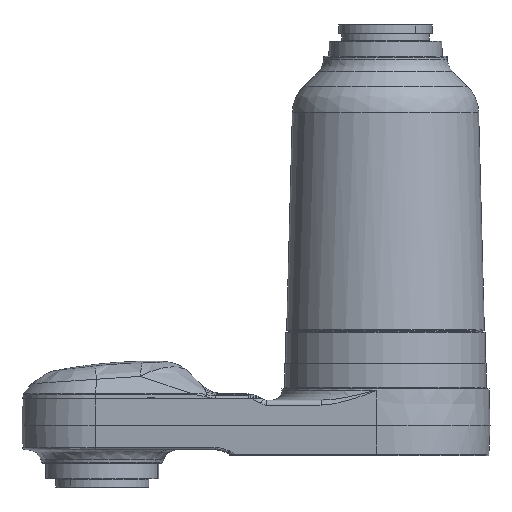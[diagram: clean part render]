
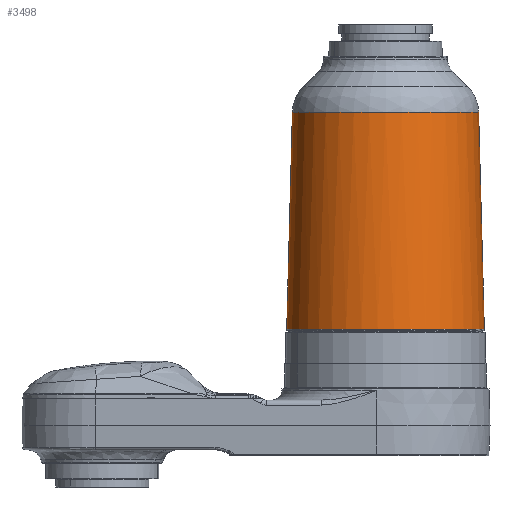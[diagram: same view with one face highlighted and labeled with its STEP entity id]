
A CAD part, front view. The second image highlights one B-rep face of the part: STEP entity #3498.
In plain terms, the highlighted face is a revolution surface.
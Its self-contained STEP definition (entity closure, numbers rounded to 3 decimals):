
#3185=CARTESIAN_POINT('Vertex',(73.989,0.,-292.861)) ;
#3192=CARTESIAN_POINT('Vertex',(-73.989,0.,-292.861)) ;
#3371=CARTESIAN_POINT('Axis2P3D Location',(0.,0.,-292.861)) ;
#3396=CARTESIAN_POINT('Vertex',(78.5,0.,-465.123)) ;
#3403=CARTESIAN_POINT('Vertex',(-78.5,0.,-465.123)) ;
#3406=CARTESIAN_POINT('Line Origine',(-76.245,0.,-378.992)) ;
#3411=CARTESIAN_POINT('Line Origine',(76.245,0.,-378.992)) ;
#3473=CARTESIAN_POINT('Control Point',(-73.989,0.,-292.861)) ;
#3474=CARTESIAN_POINT('Control Point',(-78.5,0.,-465.123)) ;
#3475=CARTESIAN_POINT('Axis1P Location',(0.,0.,-541.5)) ;
#3479=CARTESIAN_POINT('Axis2P3D Location',(0.,0.,-465.123)) ;
#3483=CARTESIAN_POINT('Vertex',(-68.89,-37.635,-465.123)) ;
#3486=CARTESIAN_POINT('Axis2P3D Location',(0.,0.,-465.123)) ;
#3372=DIRECTION('Axis2P3D Direction',(0.,0.,-1.)) ;
#3407=DIRECTION('Vector Direction',(-0.026,0.,-1.)) ;
#3412=DIRECTION('Vector Direction',(0.026,0.,-1.)) ;
#3476=DIRECTION('Axis1P Direction',(0.,0.,1.)) ;
#3480=DIRECTION('Axis2P3D Direction',(0.,0.,1.)) ;
#3487=DIRECTION('Axis2P3D Direction',(0.,0.,1.)) ;
#3373=AXIS2_PLACEMENT_3D('Circle Axis2P3D',#3371,#3372,$) ;
#3481=AXIS2_PLACEMENT_3D('Circle Axis2P3D',#3479,#3480,$) ;
#3488=AXIS2_PLACEMENT_3D('Circle Axis2P3D',#3486,#3487,$) ;
#3492=ORIENTED_EDGE('',*,*,#3485,.F.) ;
#3493=ORIENTED_EDGE('',*,*,#3490,.T.) ;
#3494=ORIENTED_EDGE('',*,*,#3415,.T.) ;
#3495=ORIENTED_EDGE('',*,*,#3375,.T.) ;
#3496=ORIENTED_EDGE('',*,*,#3410,.F.) ;
#3408=VECTOR('Line Direction',#3407,1.) ;
#3413=VECTOR('Line Direction',#3412,1.) ;
#3498=ADVANCED_FACE('E__A I_____',(#3497),#3478,.F.) ;
#3477=AXIS1_PLACEMENT('Revolution Surface Axis1P',#3475,#3476) ;
#3472=B_SPLINE_CURVE_WITH_KNOTS('',1,(#3473,#3474),.UNSPECIFIED.,.F.,.U.,(2,2),(-86.16,86.16),.UNSPECIFIED.) ;
#3374=CIRCLE('generated circle',#3373,73.989) ;
#3482=CIRCLE('generated circle',#3481,78.5) ;
#3489=CIRCLE('generated circle',#3488,78.5) ;
#3375=EDGE_CURVE('',#3186,#3193,#3374,.T.) ;
#3410=EDGE_CURVE('',#3404,#3193,#3409,.F.) ;
#3415=EDGE_CURVE('',#3397,#3186,#3414,.F.) ;
#3485=EDGE_CURVE('',#3484,#3404,#3482,.F.) ;
#3490=EDGE_CURVE('',#3484,#3397,#3489,.T.) ;
#3491=EDGE_LOOP('',(#3492,#3493,#3494,#3495,#3496)) ;
#3497=FACE_OUTER_BOUND('',#3491,.T.) ;
#3409=LINE('Line',#3406,#3408) ;
#3414=LINE('Line',#3411,#3413) ;
#3478=SURFACE_OF_REVOLUTION('Surface of Revolution',#3472,#3477) ;
#3186=VERTEX_POINT('',#3185) ;
#3193=VERTEX_POINT('',#3192) ;
#3397=VERTEX_POINT('',#3396) ;
#3404=VERTEX_POINT('',#3403) ;
#3484=VERTEX_POINT('',#3483) ;
